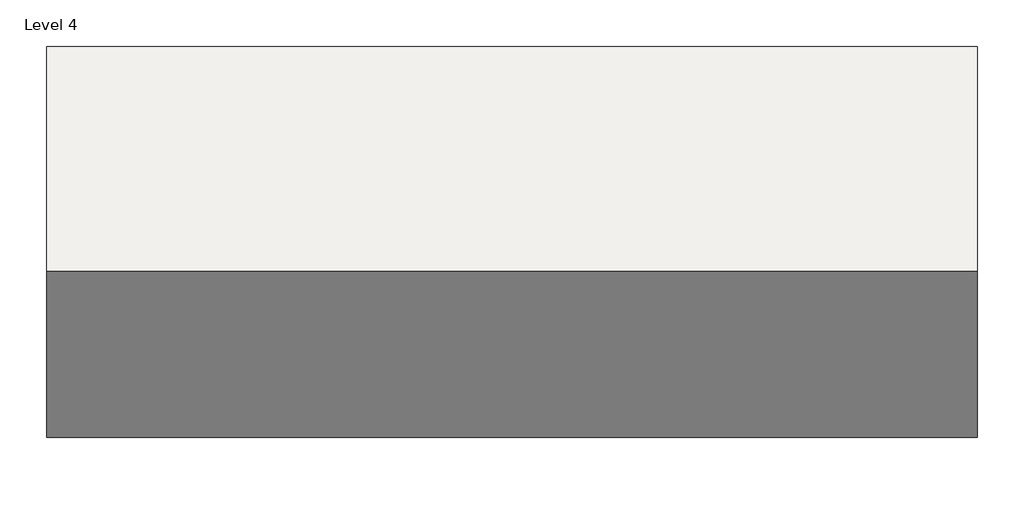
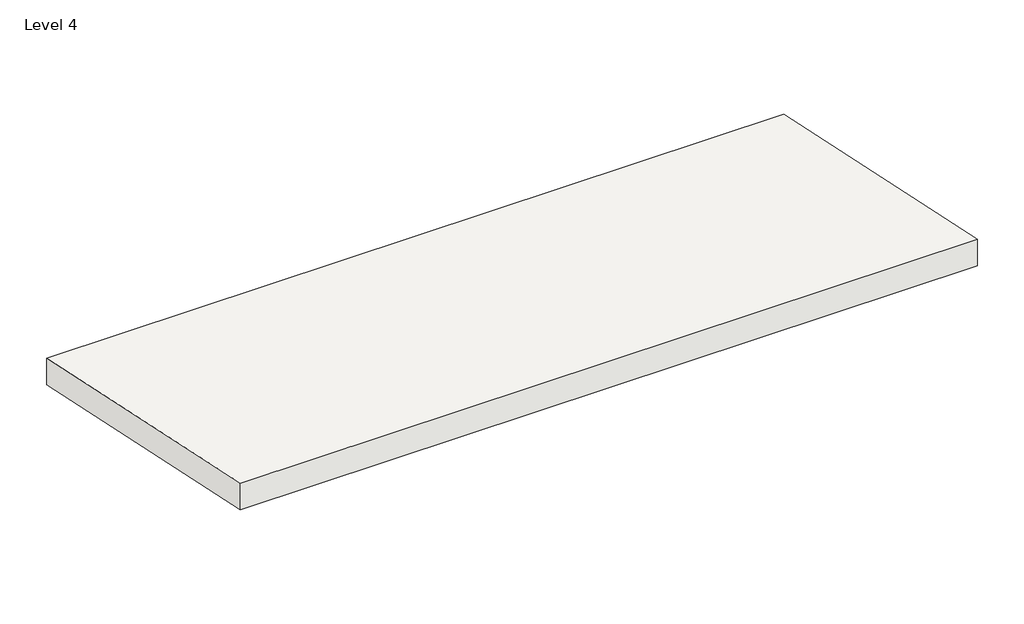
# One storey: 1 roof.
"""IFC4 building model written with IfcOpenShell, lengths in millimetres."""

from ifc_helpers import new_model, si_unit, frame, origin, place, context, project, spatial, polyline, outline, extrude, element, save

model = new_model("IFC4")

# Units and contexts
model_context = context("Model", 3, world=origin())
ifc_project = project(units=[si_unit("LENGTHUNIT", "METRE", prefix="MILLI")], contexts=[model_context])

# Site, building, storey
site = spatial("IfcSite", under=ifc_project)
building = spatial("IfcBuilding", under=site)
storey = spatial("IfcBuildingStorey", under=building, Name="Level 4", Elevation=4400.0)

# Roof
placement = place(None, origin())
element("IfcRoof", 1, ObjectType="Generic - 500mm", at=placement, inside=storey, context=model_context, shape_type="SweptSolid", body=[
    extrude(outline(polyline([(3840.0, 6212.0164549), (9960.0, 4911.1702974), (9960.0, 4400.0), (3840.0, 5700.8461574), (3840.0, 6212.0164549)])), frame((-1080.0, 0.0, 0.0), z_axis=(1.0, 0.0, 0.0), x_axis=(0.0, 1.0, 0.0)), (0.0, 0.0, 1.0), 13440.0),
])

save(model, "model.ifc")
